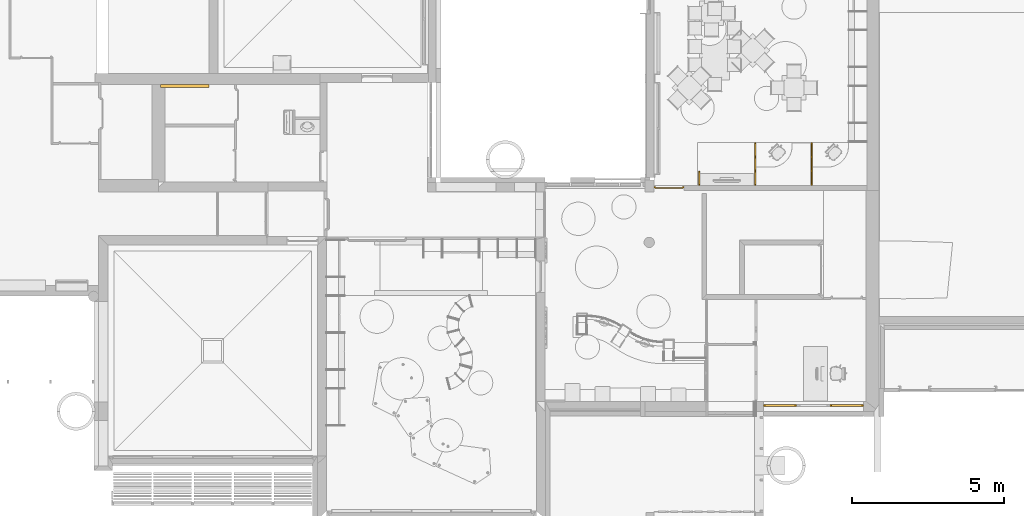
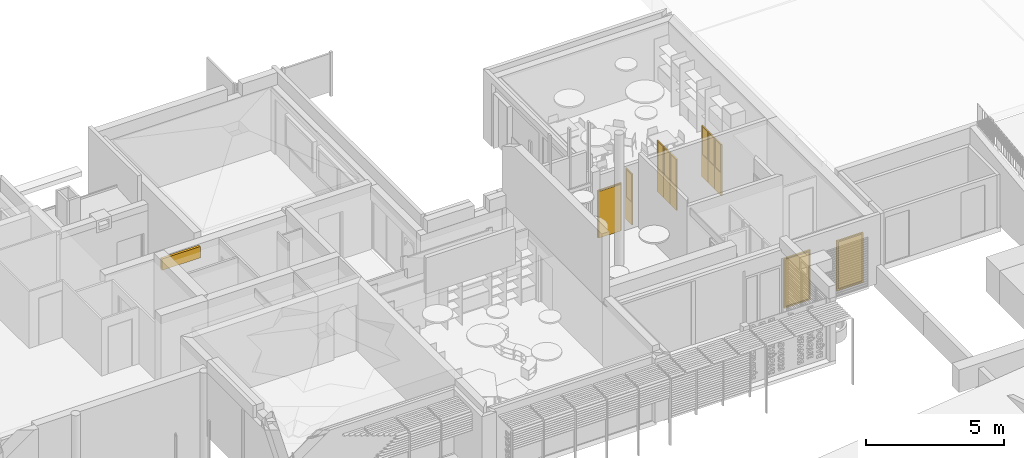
# One storey, part 45 of 64: 10 windows, 1 door.
"""IFC2X3 building model written with IfcOpenShell, lengths in metres."""

from ifc_helpers import new_model, entity, si_unit, converted_unit, derived_unit, direction, frame, frame_2d, origin, origin_2d_with_axis, place, context, subcontext, project, spatial, polyline, rectangle, outline, extrude, faceted_brep, source, transform, mapped, material, material_list, type_object, type_shapes, element, save


model = new_model("IFC2X3")

# Units and contexts
model_context = context("Model", 3, precision=1e-05, world=origin(), true_north=direction((6.123031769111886e-17, 1.0)))
body_context = subcontext(model_context, "Body", "Model", "MODEL_VIEW")
ifc_project = project(units=[si_unit("LENGTHUNIT", "METRE"), si_unit("AREAUNIT", "SQUARE_METRE"), si_unit("VOLUMEUNIT", "CUBIC_METRE"), converted_unit("PLANEANGLEUNIT", "DEGREE", entity("IfcRatioMeasure", 0.017453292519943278), si_unit("PLANEANGLEUNIT", "RADIAN"), dimensions=[0, 0, 0, 0, 0, 0, 0]), si_unit("MASSUNIT", "GRAM", prefix="KILO"), derived_unit("MASSDENSITYUNIT", [(si_unit("MASSUNIT", "GRAM", prefix="KILO"), 1), (si_unit("LENGTHUNIT", "METRE"), -3)]), derived_unit("MOMENTOFINERTIAUNIT", [(si_unit("LENGTHUNIT", "METRE"), 4)]), si_unit("TIMEUNIT", "SECOND"), si_unit("FREQUENCYUNIT", "HERTZ"), si_unit("THERMODYNAMICTEMPERATUREUNIT", "DEGREE_CELSIUS"), derived_unit("THERMALTRANSMITTANCEUNIT", [(si_unit("MASSUNIT", "GRAM", prefix="KILO"), 1), (si_unit("THERMODYNAMICTEMPERATUREUNIT", "KELVIN"), -1), (si_unit("TIMEUNIT", "SECOND"), -3)]), derived_unit("THERMALCONDUCTANCEUNIT", [(si_unit("MASSUNIT", "GRAM", prefix="KILO"), 1), (si_unit("LENGTHUNIT", "METRE"), 1), (si_unit("THERMODYNAMICTEMPERATUREUNIT", "KELVIN"), -1), (si_unit("TIMEUNIT", "SECOND"), -3)]), derived_unit("VOLUMETRICFLOWRATEUNIT", [(si_unit("LENGTHUNIT", "METRE"), 3), (si_unit("TIMEUNIT", "SECOND"), -1)]), derived_unit("MASSFLOWRATEUNIT", [(si_unit("MASSUNIT", "GRAM", prefix="KILO"), 1), (si_unit("TIMEUNIT", "SECOND"), -1)]), derived_unit("ROTATIONALFREQUENCYUNIT", [(si_unit("TIMEUNIT", "SECOND"), -1)]), si_unit("ELECTRICCURRENTUNIT", "AMPERE"), si_unit("ELECTRICVOLTAGEUNIT", "VOLT"), si_unit("POWERUNIT", "WATT"), si_unit("FORCEUNIT", "NEWTON", prefix="KILO"), si_unit("ILLUMINANCEUNIT", "LUX"), si_unit("LUMINOUSFLUXUNIT", "LUMEN"), si_unit("LUMINOUSINTENSITYUNIT", "CANDELA"), derived_unit("USERDEFINED", [(si_unit("MASSUNIT", "GRAM", prefix="KILO"), -1), (si_unit("LENGTHUNIT", "METRE"), -2), (si_unit("TIMEUNIT", "SECOND"), 3), (si_unit("LUMINOUSFLUXUNIT", "LUMEN"), 1)]), derived_unit("USERDEFINED", [(si_unit("MASSUNIT", "GRAM", prefix="KILO"), 1), (si_unit("LENGTHUNIT", "METRE"), 3), (si_unit("TIMEUNIT", "SECOND"), -3), (si_unit("ELECTRICCURRENTUNIT", "AMPERE"), -2)]), derived_unit("USERDEFINED", [(si_unit("LENGTHUNIT", "METRE"), 2), (si_unit("TIMEUNIT", "SECOND"), -2)]), derived_unit("SOUNDPOWERUNIT", [(si_unit("MASSUNIT", "GRAM", prefix="KILO"), 1), (si_unit("LENGTHUNIT", "METRE"), 2), (si_unit("TIMEUNIT", "SECOND"), -3)]), derived_unit("SOUNDPRESSUREUNIT", [(si_unit("MASSUNIT", "GRAM", prefix="KILO"), 1), (si_unit("LENGTHUNIT", "METRE"), -1), (si_unit("TIMEUNIT", "SECOND"), -2)]), derived_unit("LINEARVELOCITYUNIT", [(si_unit("LENGTHUNIT", "METRE"), 1), (si_unit("TIMEUNIT", "SECOND"), -1)]), si_unit("PRESSUREUNIT", "PASCAL"), derived_unit("USERDEFINED", [(si_unit("LENGTHUNIT", "METRE"), -2), (si_unit("MASSUNIT", "GRAM", prefix="KILO"), 1), (si_unit("TIMEUNIT", "SECOND"), -2)]), derived_unit("LINEARFORCEUNIT", [(si_unit("MASSUNIT", "GRAM", prefix="KILO"), 1), (si_unit("LENGTHUNIT", "METRE"), 1), (si_unit("TIMEUNIT", "SECOND"), -2), (si_unit("LENGTHUNIT", "METRE"), -1)]), derived_unit("PLANARFORCEUNIT", [(si_unit("MASSUNIT", "GRAM", prefix="KILO"), 1), (si_unit("LENGTHUNIT", "METRE"), 1), (si_unit("TIMEUNIT", "SECOND"), -2), (si_unit("LENGTHUNIT", "METRE"), -2)]), derived_unit("SPECIFICHEATCAPACITYUNIT", [(si_unit("LENGTHUNIT", "METRE"), 2), (si_unit("TIMEUNIT", "SECOND"), -2), (si_unit("THERMODYNAMICTEMPERATUREUNIT", "KELVIN"), -1)]), derived_unit("VAPORPERMEABILITYUNIT", [(si_unit("TIMEUNIT", "SECOND"), 1), (si_unit("LENGTHUNIT", "METRE"), -1)]), derived_unit("DYNAMICVISCOSITYUNIT", [(si_unit("MASSUNIT", "GRAM", prefix="KILO"), 1), (si_unit("LENGTHUNIT", "METRE"), -1), (si_unit("TIMEUNIT", "SECOND"), -1)]), derived_unit("THERMALEXPANSIONCOEFFICIENTUNIT", [(si_unit("THERMODYNAMICTEMPERATUREUNIT", "KELVIN"), -1)])], contexts=[model_context])

# Site, building, storey
site_placement = place(None, origin())
site = spatial("IfcSite", under=ifc_project, at=site_placement, Name="Default", CompositionType="ELEMENT")
building_placement = place(site_placement, origin())
building = spatial("IfcBuilding", under=site, at=building_placement, CompositionType="ELEMENT")
storey_placement = place(building_placement, origin())
storey = spatial("IfcBuildingStorey", under=building, at=storey_placement, Name="REZ-DE-CHAUSSÉE", CompositionType="ELEMENT", Elevation=0.0)

# Windows
ifc_material_1 = material(Name="Transp. - Verre clair (rapide)")
ifc_material_2 = material(Name="Peinture - Anthracite")
ifc_material_list_1 = material_list([ifc_material_1, ifc_material_2])
window_style_1 = type_object("IfcWindowStyle", Name="Fen-007", ConstructionType="NOTDEFINED", OperationType="NOTDEFINED", ParameterTakesPrecedence=False, Sizeable=False, material=ifc_material_list_1)
shared_shape_1 = source(origin(), body_context, "Body", "SweptSolid", [
    extrude(rectangle(XDim=0.9999999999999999, YDim=0.010000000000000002, at=origin_2d_with_axis()), frame((0.5499999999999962, -0.36829999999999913, 0.0601)), (0.0, 0.0, 1.0), 2.0899),
    extrude(outline(polyline([(-1.1, -0.55), (1.1, -0.55), (1.1, 0.55), (-1.1, 0.55), (-1.1, -0.55)]), holes=[polyline([(1.04, 0.5), (1.0399999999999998, -0.4999999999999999), (-1.0499999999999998, -0.4999999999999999), (-1.0499999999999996, 0.5), (1.04, 0.5)])]), frame((0.5499999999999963, -0.4032999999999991, 1.1), z_axis=(0.0, 1.0, 0.0), x_axis=(0.0, 0.0, -1.0)), (0.0, 0.0, 1.0), 0.07),
])
type_shapes(window_style_1, [shared_shape_1])
window_1_placement = place(storey_placement, frame((125.68075228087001, 7.5789094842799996, 0.0), z_axis=(0.0, 0.0, 1.0), x_axis=(-1.0, 0.0, 0.0)))
element("IfcWindow", 1, at=window_1_placement, inside=storey, type_object=window_style_1, material=ifc_material_list_1, Name="Fen-007 9315:Fen-007 9315", ObjectType="Fen-007 9315:Fen-007 9315", OverallHeight=2.2, OverallWidth=1.1000000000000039, context=body_context, shape_type="MappedRepresentation", body=[
    mapped(shared_shape_1, transform((0.0, 0.0, 0.0), scale=1.0)),
])
window_style_2 = type_object("IfcWindowStyle", Name="Fen-007", ConstructionType="NOTDEFINED", OperationType="NOTDEFINED", ParameterTakesPrecedence=False, Sizeable=False, material=ifc_material_list_1)
shared_shape_2 = source(origin(), body_context, "Body", "SweptSolid", [
    extrude(rectangle(XDim=0.010000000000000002, YDim=0.9999999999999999, at=origin_2d_with_axis()), frame((0.5500000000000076, -0.36829999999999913, 0.0601), z_axis=(0.0, 0.0, 1.0), x_axis=(0.0, -1.0, 0.0)), (0.0, 0.0, 1.0), 2.0899),
    extrude(outline(polyline([(-0.55, -1.1), (0.55, -1.1), (0.55, 1.1), (-0.55, 1.1), (-0.55, -1.1)]), holes=[polyline([(0.5, 1.0499999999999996), (0.5, -1.0400000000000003), (-0.4999999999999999, -1.0399999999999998), (-0.4999999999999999, 1.0499999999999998), (0.5, 1.0499999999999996)])]), frame((0.5500000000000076, -0.4032999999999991, 1.1), z_axis=(0.0, 1.0, 0.0), x_axis=(-1.0, 0.0, 0.0)), (0.0, 0.0, 1.0), 0.07),
])
type_shapes(window_style_2, [shared_shape_2])
window_2_placement = place(storey_placement, frame((127.88075228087, 7.5789094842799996, 0.0), z_axis=(0.0, 0.0, 1.0), x_axis=(-1.0, 0.0, 0.0)))
element("IfcWindow", 2, at=window_2_placement, inside=storey, type_object=window_style_2, material=ifc_material_list_1, Name="Fen-007 9501:Fen-007 9501", ObjectType="Fen-007 9501:Fen-007 9501", OverallHeight=2.2, OverallWidth=1.1000000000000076, context=body_context, shape_type="MappedRepresentation", body=[
    mapped(shared_shape_2, transform((0.0, 0.0, 0.0), scale=1.0)),
])

# Door
ifc_material_3 = material(Name="Peinture - Gris clair")
door_style = type_object("IfcDoorStyle", Name="Por-003", ConstructionType="NOTDEFINED", OperationType="SINGLE_SWING_LEFT", ParameterTakesPrecedence=False, Sizeable=False, material=ifc_material_3)
shared_shape_3 = source(origin(), body_context, "Body", "Brep", [
    faceted_brep([(0.0, -0.16319999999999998, 0.0), (0.0, -0.16319999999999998, 2.09), (1.0, -0.16319999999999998, 2.09), (1.0, -0.16319999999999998, 0.0), (0.965000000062, -0.16319999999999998, 0.0), (0.965000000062, -0.16319999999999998, 2.055), (0.03499999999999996, -0.16319999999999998, 2.055), (0.03499999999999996, -0.16319999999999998, 0.0), (0.0, -0.2132, 0.0), (0.0, -0.2132, 2.09), (1.0, -0.2132, 2.09), (1.0, -0.2132, 0.0), (0.9500000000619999, -0.2132, 0.0), (0.9500000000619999, -0.1782, 0.0), (0.965000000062, -0.1782, 0.0), (0.965000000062, -0.1782, 2.055), (0.03499999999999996, -0.1782, 2.055), (0.03499999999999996, -0.1782, 0.0), (0.05, -0.1782, 0.0), (0.05, -0.2132, 0.0), (0.9500000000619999, -0.2132, 2.04), (0.05, -0.2132, 2.04), (0.9500000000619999, -0.1782, 2.04), (0.05, -0.1782, 2.04), (0.03499999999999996, -0.1382, 0.0), (0.965000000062, -0.1382, 0.0), (0.03499999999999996, -0.1382, 2.055), (0.965000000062, -0.1382, 2.055)], [[[0, 1, 2, 3, 4, 5, 6, 7]], [[8, 9, 1, 0]], [[9, 10, 2, 1]], [[10, 11, 3, 2]], [[3, 11, 12, 13, 14, 4]], [[5, 4, 14, 15]], [[6, 5, 15, 16]], [[7, 6, 16, 17]], [[0, 7, 17, 18, 19, 8]], [[19, 8, 9, 10, 11, 12, 20, 21]], [[22, 13, 12, 20]], [[17, 16, 15, 14, 13, 22, 23, 18]], [[18, 23, 21, 19]], [[23, 22, 20, 21]], [[24, 25, 14, 17]], [[24, 26, 27, 25]], [[25, 27, 15, 14]], [[17, 14, 15, 16]], [[26, 24, 17, 16]], [[27, 26, 16, 15]]]),
])
type_shapes(door_style, [shared_shape_3])
door_placement = place(storey_placement, frame((121.965752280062, 14.964009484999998, 0.0), z_axis=(0.0, 0.0, 1.0), x_axis=(-1.0, 0.0, 0.0)))
element("IfcDoor", 3, at=door_placement, inside=storey, type_object=door_style, material=ifc_material_3, Name="Por-003 11722:Por-003 11722", ObjectType="Por-003 11722:Por-003 11722", OverallHeight=2.09, OverallWidth=1.0000000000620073, context=body_context, shape_type="MappedRepresentation", body=[
    mapped(shared_shape_3, transform((0.0, 0.0, 0.0), scale=1.0)),
])

# Windows
ifc_material_4 = material(Name="Enduit - Beige nature")
ifc_material_list_2 = material_list([ifc_material_1, ifc_material_4])
window_style_3 = type_object("IfcWindowStyle", Name="Fen-003", ConstructionType="NOTDEFINED", OperationType="NOTDEFINED", ParameterTakesPrecedence=False, Sizeable=False, material=ifc_material_list_2)
shared_shape_4 = source(origin(), body_context, "Body", "SweptSolid", [
    extrude(rectangle(XDim=0.1, YDim=0.13999999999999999, at=frame_2d((0.0, 6.938893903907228e-17), x_axis=(1.0, 0.0))), frame((0.0750000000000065, 0.7808, 0.009999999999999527), z_axis=(0.0, 0.0, 1.0), x_axis=(0.0, 1.0, 0.0)), (0.0, 0.0, 1.0), 0.4799999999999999),
    extrude(rectangle(XDim=0.1, YDim=0.13999999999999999, at=origin_2d_with_axis()), frame((0.2200000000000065, 0.7808, 0.009999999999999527), z_axis=(0.0, 0.0, 1.0), x_axis=(0.0, 1.0, 0.0)), (0.0, 0.0, 1.0), 0.4799999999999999),
    extrude(rectangle(XDim=0.1, YDim=0.14000000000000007, at=frame_2d((0.0, 3.469446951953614e-17), x_axis=(1.0, 0.0))), frame((0.3650000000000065, 0.7808, 0.009999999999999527), z_axis=(0.0, 0.0, 1.0), x_axis=(0.0, 1.0, 0.0)), (0.0, 0.0, 1.0), 0.4799999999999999),
    extrude(rectangle(XDim=0.1, YDim=0.13999999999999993, at=origin_2d_with_axis()), frame((0.5100000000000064, 0.7808, 0.009999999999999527), z_axis=(0.0, 0.0, 1.0), x_axis=(0.0, 1.0, 0.0)), (0.0, 0.0, 1.0), 0.4799999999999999),
    extrude(rectangle(XDim=0.1, YDim=0.13999999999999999, at=origin_2d_with_axis()), frame((0.6550000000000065, 0.7808, 0.009999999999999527), z_axis=(0.0, 0.0, 1.0), x_axis=(0.0, 1.0, 0.0)), (0.0, 0.0, 1.0), 0.4799999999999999),
    extrude(rectangle(XDim=0.1, YDim=0.13999999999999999, at=origin_2d_with_axis()), frame((0.8000000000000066, 0.7808, 0.009999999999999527), z_axis=(0.0, 0.0, 1.0), x_axis=(0.0, 1.0, 0.0)), (0.0, 0.0, 1.0), 0.4799999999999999),
    extrude(rectangle(XDim=0.1, YDim=0.13999999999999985, at=origin_2d_with_axis()), frame((0.9450000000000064, 0.7808, 0.009999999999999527), z_axis=(0.0, 0.0, 1.0), x_axis=(0.0, 1.0, 0.0)), (0.0, 0.0, 1.0), 0.4799999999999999),
    extrude(rectangle(XDim=0.1, YDim=0.13999999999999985, at=origin_2d_with_axis()), frame((1.0900000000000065, 0.7808, 0.009999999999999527), z_axis=(0.0, 0.0, 1.0), x_axis=(0.0, 1.0, 0.0)), (0.0, 0.0, 1.0), 0.4799999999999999),
    extrude(rectangle(XDim=0.1, YDim=0.13999999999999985, at=origin_2d_with_axis()), frame((1.2350000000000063, 0.7808, 0.009999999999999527), z_axis=(0.0, 0.0, 1.0), x_axis=(0.0, 1.0, 0.0)), (0.0, 0.0, 1.0), 0.4799999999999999),
    extrude(rectangle(XDim=0.1, YDim=0.13999999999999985, at=origin_2d_with_axis()), frame((1.3800000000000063, 0.7808, 0.009999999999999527), z_axis=(0.0, 0.0, 1.0), x_axis=(0.0, 1.0, 0.0)), (0.0, 0.0, 1.0), 0.4799999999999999),
    extrude(rectangle(XDim=0.1, YDim=0.13999999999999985, at=origin_2d_with_axis()), frame((1.5250000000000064, 0.7808, 0.009999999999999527), z_axis=(0.0, 0.0, 1.0), x_axis=(0.0, 1.0, 0.0)), (0.0, 0.0, 1.0), 0.4799999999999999),
    extrude(outline(polyline([(-0.24999999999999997, -0.8), (0.24999999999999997, -0.8), (0.24999999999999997, 0.8), (-0.24999999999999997, 0.8), (-0.24999999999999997, -0.8)]), holes=[polyline([(0.24000000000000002, -0.655), (0.24000000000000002, -0.7949999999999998), (-0.23999999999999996, -0.7949999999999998), (-0.24000000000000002, -0.655), (0.24000000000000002, -0.655)]), polyline([(0.24000000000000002, -0.5099999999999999), (0.24000000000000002, -0.6499999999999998), (-0.23999999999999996, -0.6499999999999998), (-0.24000000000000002, -0.5099999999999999), (0.24000000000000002, -0.5099999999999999)]), polyline([(0.24000000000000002, -0.3649999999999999), (0.24000000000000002, -0.5049999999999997), (-0.23999999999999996, -0.5049999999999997), (-0.24000000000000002, -0.3649999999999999), (0.24000000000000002, -0.3649999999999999)]), polyline([(0.24000000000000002, -0.21999999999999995), (0.24000000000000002, -0.35999999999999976), (-0.23999999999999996, -0.35999999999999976), (-0.24000000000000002, -0.21999999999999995), (0.24000000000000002, -0.21999999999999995)]), polyline([(0.24000000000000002, -0.07499999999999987), (0.24000000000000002, -0.21499999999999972), (-0.23999999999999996, -0.21499999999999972), (-0.24000000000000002, -0.07499999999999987), (0.24000000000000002, -0.07499999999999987)]), polyline([(0.24000000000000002, 0.07000000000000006), (0.24000000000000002, -0.06999999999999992), (-0.23999999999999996, -0.06999999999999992), (-0.24000000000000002, 0.07000000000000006), (0.24000000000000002, 0.07000000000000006)]), polyline([(0.24000000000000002, 0.21500000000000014), (0.24000000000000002, 0.07500000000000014), (-0.23999999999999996, 0.07500000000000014), (-0.24000000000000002, 0.21500000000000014), (0.24000000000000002, 0.21500000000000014)]), polyline([(0.24000000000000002, 0.36000000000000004), (0.24000000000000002, 0.22000000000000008), (-0.23999999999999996, 0.22000000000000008), (-0.24000000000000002, 0.36000000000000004), (0.24000000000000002, 0.36000000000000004)]), polyline([(0.24000000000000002, 0.505), (0.24000000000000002, 0.36500000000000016), (-0.23999999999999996, 0.36500000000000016), (-0.24000000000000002, 0.505), (0.24000000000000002, 0.505)]), polyline([(0.24000000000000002, 0.65), (0.24000000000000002, 0.5099999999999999), (-0.23999999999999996, 0.5099999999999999), (-0.24000000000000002, 0.65), (0.24000000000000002, 0.65)]), polyline([(0.24000000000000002, 0.7950000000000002), (0.24000000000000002, 0.655), (-0.23999999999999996, 0.655), (-0.24000000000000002, 0.7950000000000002), (0.24000000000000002, 0.7950000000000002)])]), frame((0.8000000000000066, 0.7308000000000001, 0.2499999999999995), z_axis=(0.0, 1.0, 0.0), x_axis=(0.0, 0.0, -1.0)), (0.0, 0.0, 1.0), 0.1),
])
type_shapes(window_style_3, [shared_shape_4])
window_3_placement = place(storey_placement, frame((106.30075227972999, 19.2680094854, 2.2600000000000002), z_axis=(0.0, 0.0, 1.0), x_axis=(-1.0, 0.0, 0.0)))
element("IfcWindow", 4, at=window_3_placement, inside=storey, type_object=window_style_3, material=ifc_material_list_2, Name="Fen-003 14240:Fen-003 14240", ObjectType="Fen-003 14240:Fen-003 14240", OverallHeight=0.5000000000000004, OverallWidth=1.6000000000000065, context=body_context, shape_type="MappedRepresentation", body=[
    mapped(shared_shape_4, transform((0.0, 0.0, 0.0), scale=1.0)),
])
ifc_material_5 = material(Name="Bois - Chêne clair")
ifc_material_list_3 = material_list([ifc_material_1, ifc_material_5])
window_style_4 = type_object("IfcWindowStyle", Name="Fen-007", ConstructionType="NOTDEFINED", OperationType="NOTDEFINED", ParameterTakesPrecedence=False, Sizeable=False, material=ifc_material_list_3)
shared_shape_5 = source(origin(), body_context, "Body", "SweptSolid", [
    extrude(rectangle(XDim=0.009999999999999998, YDim=0.4099999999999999, at=frame_2d((2.168404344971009e-18, 0.0), x_axis=(1.0, 0.0))), frame((0.23500000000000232, -0.025500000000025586, 1.0001), z_axis=(0.0, 0.0, 1.0), x_axis=(0.0, 1.0, 0.0)), (0.0, 0.0, 1.0), 1.2199),
    extrude(outline(polyline([(-1.125, -0.235), (1.125, -0.235), (1.125, 0.235), (-1.125, 0.235), (-1.125, -0.235)]), holes=[polyline([(0.12500000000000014, 0.20499999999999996), (0.12499999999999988, -0.20499999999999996), (-1.095, -0.20499999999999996), (-1.095, 0.20499999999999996), (0.12500000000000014, 0.20499999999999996)])]), frame((0.23500000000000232, -0.05050000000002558, 1.125), z_axis=(0.0, 1.0, 0.0), x_axis=(0.0, 0.0, -1.0)), (0.0, 0.0, 1.0), 0.05),
])
type_shapes(window_style_4, [shared_shape_5])
for number, where, z_axis, x_axis in (
    (5, (126.20625227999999, 15.677209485, 0.0), (0.0, 0.0, 1.0), (0.0, -1.0, 0.0)),
    (6, (126.20625227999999, 16.147209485, 0.0), (0.0, 0.0, 1.0), (0.0, -1.0, 0.0)),
    (7, (126.20625227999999, 16.617209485, 0.0), (0.0, 0.0, 1.0), (0.0, -1.0, 0.0)),
    (8, (124.34625227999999, 15.677209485, 0.0), (0.0, 0.0, 1.0), (0.0, -1.0, 0.0)),
    (9, (124.34625227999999, 16.147209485, 0.0), (0.0, 0.0, 1.0), (0.0, -1.0, 0.0)),
    (10, (124.34625227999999, 16.617209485, 0.0), (0.0, 0.0, 1.0), (0.0, -1.0, 0.0)),
    (11, (122.48625228, 15.677209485, 0.0), (0.0, 0.0, 1.0), (0.0, -1.0, 0.0)),
):
    element("IfcWindow", number, at=place(storey_placement, frame(where, z_axis=z_axis, x_axis=x_axis)), inside=storey, type_object=window_style_4, material=ifc_material_list_3, Name="Fen-007 191509:Fen-007 191509", ObjectType="Fen-007 191509:Fen-007 191509", OverallHeight=2.25, OverallWidth=0.47000000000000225, context=body_context, shape_type="MappedRepresentation", body=[
        mapped(shared_shape_5, transform((0.0, 0.0, 0.0), scale=1.0)),
    ])

save(model, "model.ifc")
